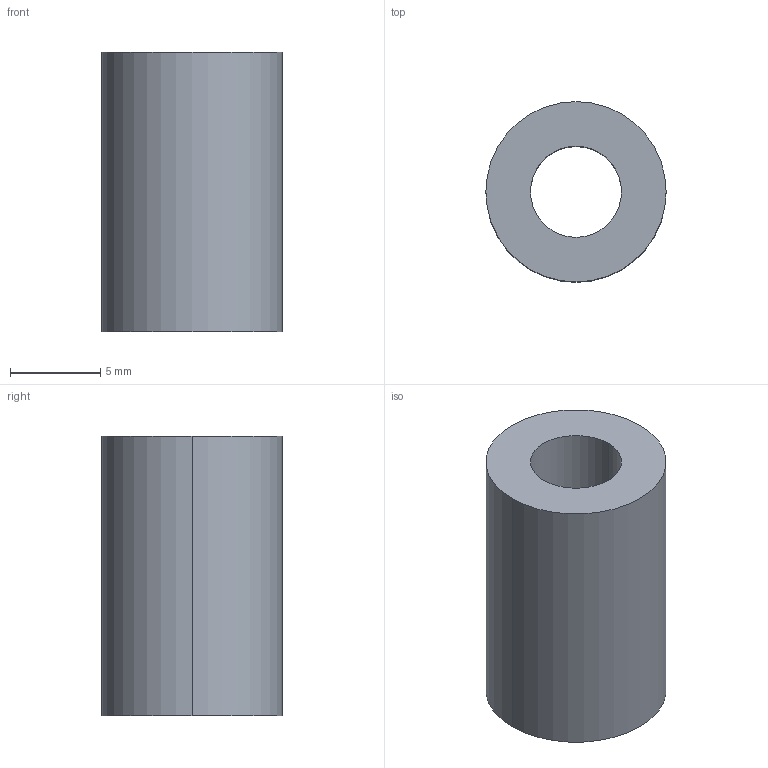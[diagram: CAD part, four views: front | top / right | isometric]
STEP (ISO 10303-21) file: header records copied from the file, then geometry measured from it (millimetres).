
FILE_DESCRIPTION (( 'STEP AP214' ), '1' );
FILE_NAME ('DrillGuide_Stopper.STEP', '2022-11-14T20:52:04', ( '' ), ( '' ), 'SwSTEP 2.0', 'SolidWorks 2021', '' );
FILE_SCHEMA (( 'AUTOMOTIVE_DESIGN' ));
Length unit declared in the file: millimetre
Products named in the file (1): DrillGuide_Stopper
Bounding box: 10 x 10 x 15.5 mm (x, y, z)
Volume: 906.9 mm3; surface area: 849.9 mm2
Topology: 1 solids, 1 shells, 6 faces, 12 edges, 8 vertices
Faces by surface type: cylinder 4, plane 2
Entity records: 202 total; most frequent: DIRECTION 34, CARTESIAN_POINT 27, ORIENTED_EDGE 24, AXIS2_PLACEMENT_3D 15, EDGE_CURVE 12, CIRCLE 8, EDGE_LOOP 8, VERTEX_POINT 8
